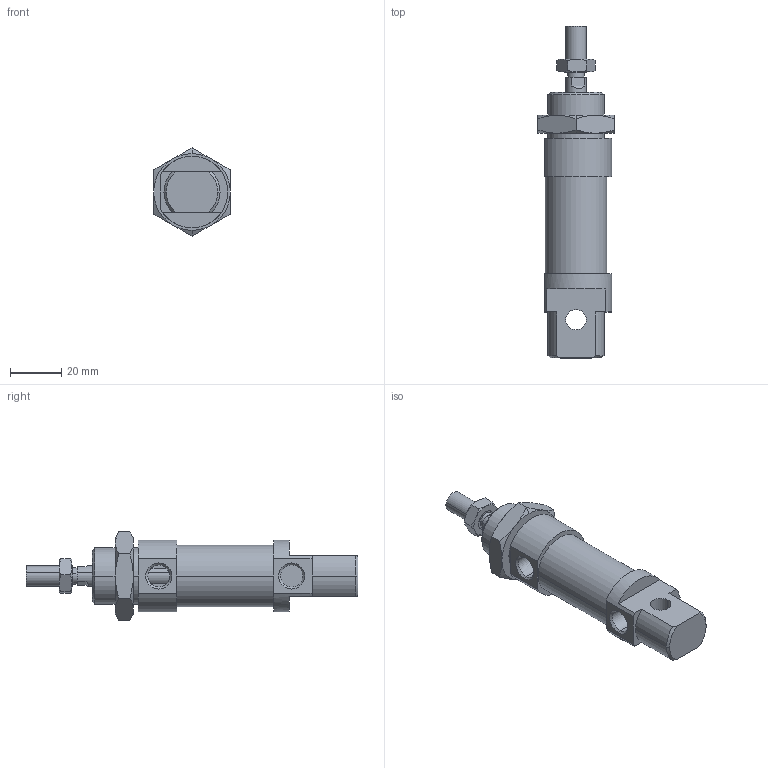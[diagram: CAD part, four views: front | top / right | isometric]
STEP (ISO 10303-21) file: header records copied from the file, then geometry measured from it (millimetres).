
FILE_DESCRIPTION((''),'2;1');
FILE_NAME('I:\DOC-EDP\Lib-3d\1200\CILINDRI\1260\1260_20_0000.stp','2003-04-02T15:00:25',('maffial1'),(''),'Autodesk Inventor (R) 6.0','Autodesk Inventor (R) 6.0','');
FILE_SCHEMA(('AUTOMOTIVE_DESIGN { 1 0 10303 214 1 1 1 1 }'));
Length unit declared in the file: millimetre
Products named in the file (5): 1260_20_0000; S1260_20_0; 1200_20_05; 1200_20_06; C1260_20_0
Assembly tree (4 placements, depth 2):
  1260_20_0000
    S1260_20_0
    1200_20_05
    1200_20_06
    C1260_20_0
Bounding box: 30 x 130 x 34.64 mm (x, y, z)
Volume: 48887.7 mm3; surface area: 14880.8 mm2
Topology: 4 solids, 4 shells, 124 faces, 281 edges, 170 vertices
Faces by surface type: plane 41, cone 40, cylinder 22, bspline 21
Entity records: 3816 total; most frequent: CARTESIAN_POINT 1039, DIRECTION 573, ORIENTED_EDGE 562, EDGE_CURVE 281, AXIS2_PLACEMENT_3D 236, VERTEX_POINT 170, EDGE_LOOP 137, FACE_OUTER_BOUND 124
